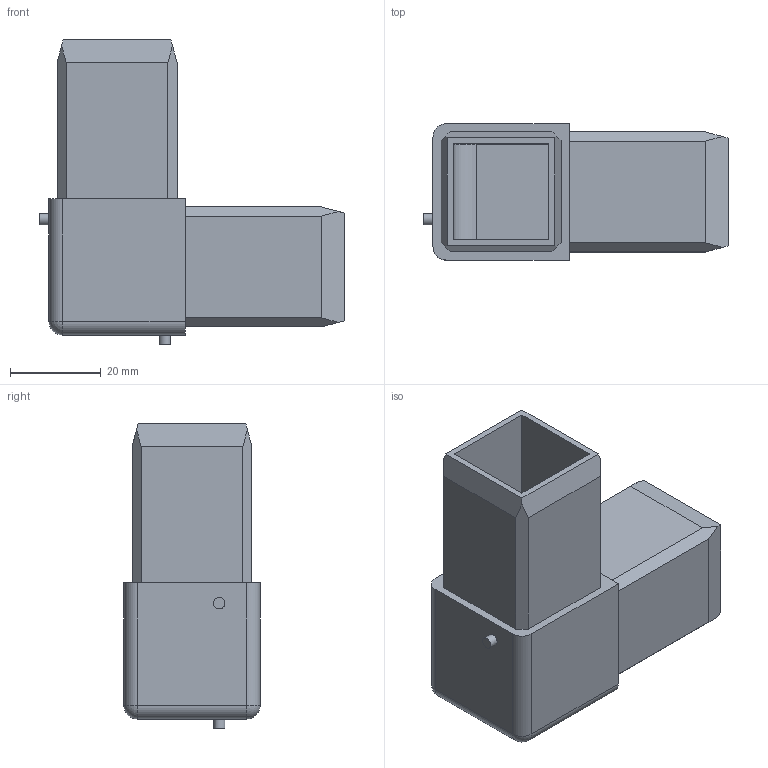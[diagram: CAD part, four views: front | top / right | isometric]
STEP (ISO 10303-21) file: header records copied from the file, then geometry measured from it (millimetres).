
FILE_DESCRIPTION (( 'STEP AP214' ), '1' );
FILE_NAME ('L15814.step', '2024-12-03T16:19:11', ( '' ), ( '' ), 'SwSTEP 2.0', 'SolidWorks 2023', '' );
FILE_SCHEMA (( 'AUTOMOTIVE_DESIGN' ));
Length unit declared in the file: millimetre
Products named in the file (1): L15814
Bounding box: 67 x 30 x 67 mm (x, y, z)
Volume: 30314.9 mm3; surface area: 19487.4 mm2
Topology: 1 solids, 1 shells, 51 faces, 132 edges, 85 vertices
Faces by surface type: plane 40, cylinder 9, sphere 2
Full cylindrical faces by diameter (mm): 2.5 x2
Entity records: 1530 total; most frequent: CARTESIAN_POINT 263, ORIENTED_EDGE 254, DIRECTION 249, EDGE_CURVE 127, VECTOR 109, LINE 109, VERTEX_POINT 84, AXIS2_PLACEMENT_3D 70
